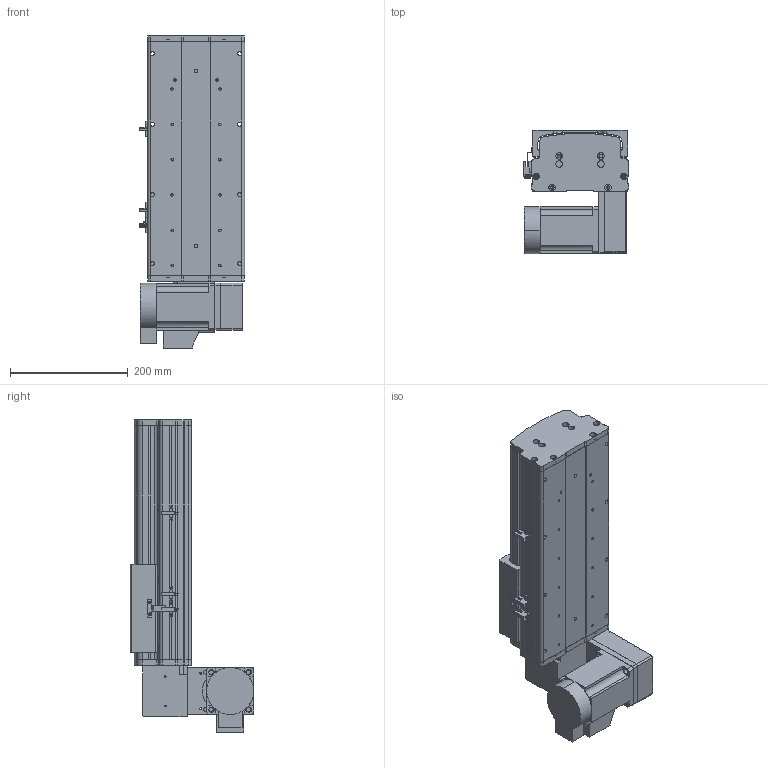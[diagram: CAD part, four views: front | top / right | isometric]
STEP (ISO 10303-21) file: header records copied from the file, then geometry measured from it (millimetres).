
FILE_DESCRIPTION (( 'STEP AP214' ), '1' );
FILE_NAME ('KSD165B-S150-MRD-CM .STEP', '2017-10-16T09:12:33', ( '微软用户' ), ( '微软中国' ), 'SwSTEP 2.0', 'SolidWorks 2014', '' );
FILE_SCHEMA (( 'AUTOMOTIVE_DESIGN' ));
Length unit declared in the file: millimetre
Products named in the file (17): KSD165B-S150-MRD-CM ; 130宽模组马达安装板连板上下折丝杆同步带; 130宽模组保护罩上下左右折-同步带; HTPA26S5M250-A-H8 750W萇儂蚚; HTPA26S5M250-A-H8 400W萇儂蚚 ; KSD165模组-同步带防尘盖1-150行程-最新版; KSD165模组同步带底板-150行程-最新; 拸秶雄ん750W侜督萇儂; 165宽马达安装板同步带右; U倰嫖萇假蚾璃; U倰嫖萇EEㄜSX672; 覜茼え68遵圉猾敕; KSD165模组-同步带-防撞垫2; KSD165模组同步带-防撞垫1; KSD165耀郪-ヶ傷啣1-肮祭湍; KSD165模组-后端板1-同步带; KSD165模组-同步带滑动座-最新版
Assembly tree (20 placements, depth 2):
  KSD165B-S150-MRD-CM 
    KSD165模组-同步带滑动座-最新版
    KSD165模组-后端板1-同步带
    KSD165耀郪-ヶ傷啣1-肮祭湍
    KSD165模组同步带-防撞垫1
    KSD165模组-同步带-防撞垫2
    覜茼え68遵圉猾敕
    U倰嫖萇EEㄜSX672  x3
    U倰嫖萇假蚾璃  x3
    165宽马达安装板同步带右
    拸秶雄ん750W侜督萇儂
    KSD165模组同步带底板-150行程-最新
    KSD165模组-同步带防尘盖1-150行程-最新版
    HTPA26S5M250-A-H8 400W萇儂蚚 
    HTPA26S5M250-A-H8 750W萇儂蚚
    130宽模组保护罩上下左右折-同步带
    130宽模组马达安装板连板上下折丝杆同步带
Bounding box: 178.7 x 210 x 530.5 mm (x, y, z)
Volume: 4080185.3 mm3; surface area: 937793.3 mm2
Topology: 21 solids, 21 shells, 1849 faces, 5202 edges, 3392 vertices
Faces by surface type: cylinder 1163, plane 574, cone 112
Entity records: 58972 total; most frequent: CARTESIAN_POINT 12088, DIRECTION 9782, ORIENTED_EDGE 9064, EDGE_CURVE 4532, AXIS2_PLACEMENT_3D 3820, VERTEX_POINT 2984, CIRCLE 2168, LINE 2142
